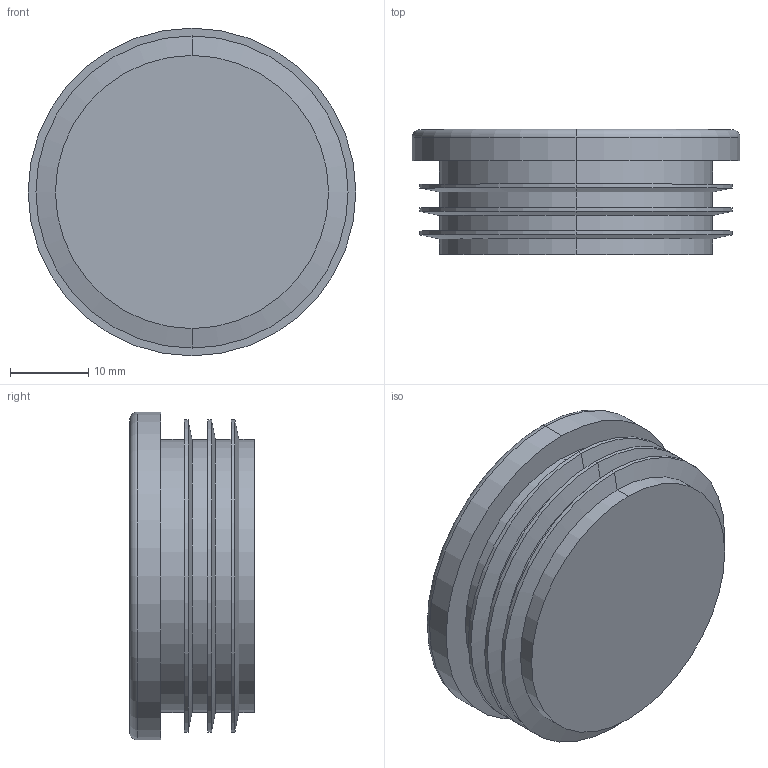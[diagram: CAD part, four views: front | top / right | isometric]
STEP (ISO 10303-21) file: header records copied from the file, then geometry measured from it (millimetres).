
FILE_DESCRIPTION (( 'STEP AP203' ), '1' );
FILE_NAME ('Ändhylsa till rör 42.STEP', '2014-09-29T05:30:55', ( 'daniel' ), ( 'Microsoft' ), 'SwSTEP 2.0', 'SolidWorks 2014', '' );
FILE_SCHEMA (( 'CONFIG_CONTROL_DESIGN' ));
Length unit declared in the file: millimetre
Products named in the file (1): Ändhylsa till rör 42
Bounding box: 42 x 16 x 42 mm (x, y, z)
Volume: 17716.9 mm3; surface area: 6204.3 mm2
Topology: 1 solids, 1 shells, 30 faces, 58 edges, 34 vertices
Faces by surface type: cylinder 16, cone 6, plane 6, torus 2
Entity records: 843 total; most frequent: DIRECTION 156, CARTESIAN_POINT 123, ORIENTED_EDGE 116, AXIS2_PLACEMENT_3D 67, EDGE_CURVE 58, CIRCLE 36, EDGE_LOOP 34, VERTEX_POINT 34
